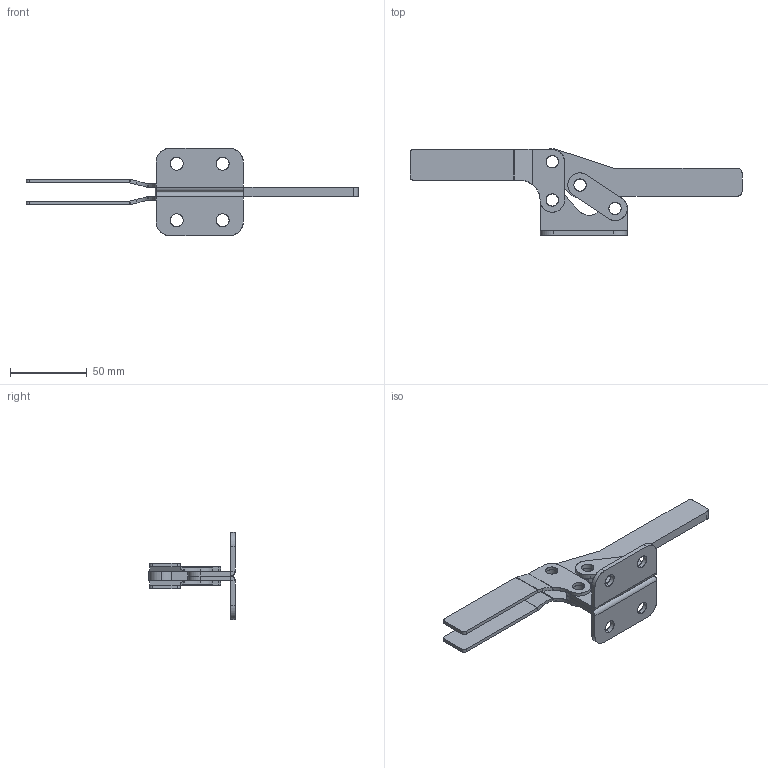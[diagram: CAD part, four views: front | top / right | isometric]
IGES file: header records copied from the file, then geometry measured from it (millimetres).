
Start section: SolidWorks IGES file using analytic representation for surfaces
Global section: file name: D:\GH Files\GH-SW-FILES\GH2\25382\25382.IGS; native system: SolidWorks 2007; preprocessor: SolidWorks 2007; author: Administrator; date: 061018.175019; units: millimetre
Bounding box: 217 x 56.5 x 57 mm (x, y, z)
Surface area: 32313.7 mm2 (no closed solid volume)
Topology: 0 solids, 0 shells, 156 faces, 2490 edges, 2490 vertices
Faces by surface type: revolution 81, bspline 75
